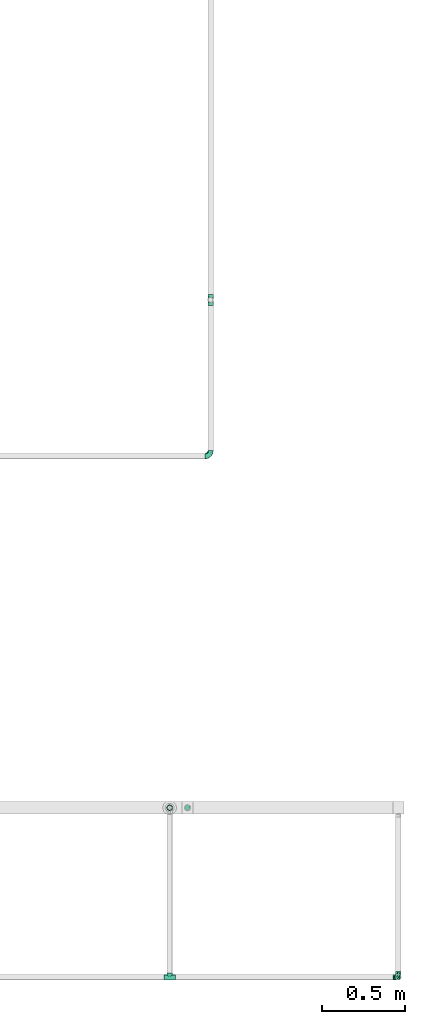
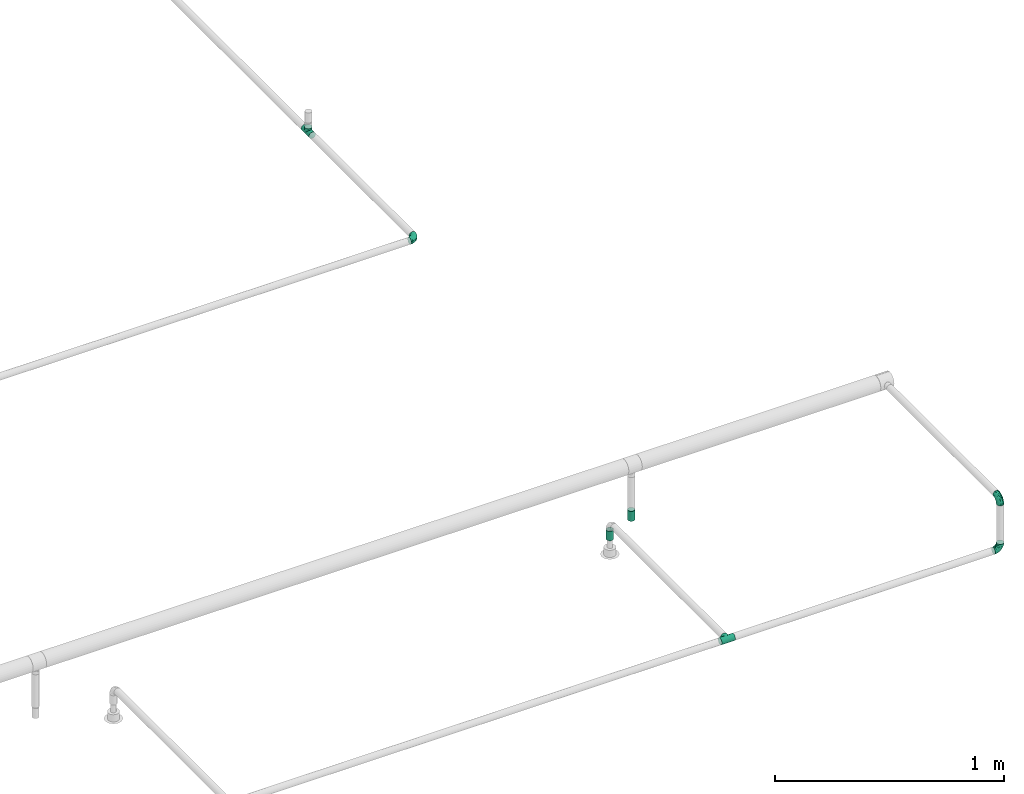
# One storey, part 36 of 45: 5 flow fittings, 1 flow segment, 1 flow terminal.
"""IFC2X3 building model written with IfcOpenShell, lengths in millimetres."""

import ifcopenshell
import ifcopenshell.guid

model = None  # the IFC model being written
_history = None  # IfcOwnerHistory: only IFC2X3 demands one
_inside = {}  # id of a spatial element -> (the spatial element, [elements in it])
_under = {}  # id of a project, library or spatial element -> (it, [spatial elements below it])
_declared = {}  # id of a project -> (the project, [libraries it declares])
_typed = {}  # id of a type object -> (the type object, [elements of that type])
_made_of = {}  # id of a material, layer set ... -> (it, [elements and type objects made of it])


def new_model(schema):
    """Start an empty IFC model of exactly this schema.

    Asked for "IFC4X3", IfcOpenShell would pick the latest addendum, in which some entities
    have other attributes; the version numbers below select the first issue.
    IFC2X3 requires an IfcOwnerHistory on every rooted entity: one is made here for all.
    """
    global model, _history
    if schema == "IFC4X3":
        model = ifcopenshell.file(schema_version=(4, 3, 0, 0))
    else:
        model = ifcopenshell.file(schema=schema)
    _inside.clear()
    _under.clear()
    _declared.clear()
    _typed.clear()
    _made_of.clear()
    _history = None
    if model.schema == "IFC2X3":
        org = make("IfcOrganization", Name="unknown")
        user = make(
            "IfcPersonAndOrganization",
            ThePerson=make("IfcPerson", FamilyName="unknown"),
            TheOrganization=org,
        )
        app = make(
            "IfcApplication",
            ApplicationDeveloper=org,
            Version="unknown",
            ApplicationFullName="unknown",
            ApplicationIdentifier="unknown",
        )
        _history = make(
            "IfcOwnerHistory",
            OwningUser=user,
            OwningApplication=app,
            ChangeAction="ADDED",
            CreationDate=0,
        )
    return model


def make(cls, **values):
    """One entity of the class cls with the attributes given. An attribute that is None is left unset."""
    return model.create_entity(
        cls, **{name: value for name, value in values.items() if value is not None}
    )


def entity(cls, *values):
    """Any entity or typed value of the class cls, its attributes in the order of the schema. None: left unset."""
    e = model.create_entity(cls)
    for i, value in enumerate(values):
        if value is not None:
            e[i] = value
    return e


def rooted(cls, **values):
    """An entity with a GlobalId (a new one), such as an element, a storey or a relation."""
    return make(cls, GlobalId=ifcopenshell.guid.new(), OwnerHistory=_history, **values)


def si_unit(unit_type, name, prefix=None):
    """IfcSIUnit, for example si_unit("LENGTHUNIT", "METRE", prefix="MILLI")."""
    return make("IfcSIUnit", UnitType=unit_type, Prefix=prefix, Name=name)


def converted_unit(unit_type, name, factor, base, dimensions=None, offset=None):
    """IfcConversionBasedUnit, such as the inch: factor (a typed value) times the base unit."""
    return make(
        "IfcConversionBasedUnit"
        if offset is None
        else "IfcConversionBasedUnitWithOffset",
        ConversionOffset=offset,
        Dimensions=None
        if dimensions is None
        else entity("IfcDimensionalExponents", *dimensions),
        UnitType=unit_type,
        Name=name,
        ConversionFactor=make(
            "IfcMeasureWithUnit", ValueComponent=factor, UnitComponent=base
        ),
    )


def derived_unit(unit_type, elements):
    """IfcDerivedUnit: a product of units, each with its exponent."""
    return make(
        "IfcDerivedUnit",
        Elements=[
            make("IfcDerivedUnitElement", Unit=unit, Exponent=power)
            for unit, power in elements
        ],
        UnitType=unit_type,
    )


def assignment(units):
    """IfcUnitAssignment: the units of a project."""
    return None if units is None else make("IfcUnitAssignment", Units=units)


def point(xyz):
    """IfcCartesianPoint."""
    return None if xyz is None else make("IfcCartesianPoint", Coordinates=xyz)


def direction(xyz):
    """IfcDirection."""
    return None if xyz is None else make("IfcDirection", DirectionRatios=xyz)


def frame(location, z_axis=None, x_axis=None):
    """IfcAxis2Placement3D, a coordinate frame: its origin and axes. An axis left out is left unset."""
    return make(
        "IfcAxis2Placement3D",
        Location=point(location),
        Axis=direction(z_axis),
        RefDirection=direction(x_axis),
    )


def frame_2d(location, x_axis=None):
    """IfcAxis2Placement2D, a coordinate frame in the plane: its origin and x axis."""
    return make(
        "IfcAxis2Placement2D", Location=point(location), RefDirection=direction(x_axis)
    )


def origin_with_axes():
    """The frame at (0, 0, 0) with the z axis (0, 0, 1) and the x axis (1, 0, 0) written out."""
    return frame((0.0, 0.0, 0.0), z_axis=(0.0, 0.0, 1.0), x_axis=(1.0, 0.0, 0.0))


def origin_2d_with_axis():
    """The frame at (0, 0) in the plane with the x axis (1, 0) written out."""
    return frame_2d((0.0, 0.0), x_axis=(1.0, 0.0))


def place(relative_to, where):
    """IfcLocalPlacement: puts the frame where relative to a parent placement (None: the world)."""
    return make(
        "IfcLocalPlacement", PlacementRelTo=relative_to, RelativePlacement=where
    )


def context(
    kind, dimensions, precision=None, world=None, true_north=None, identifier=None
):
    """IfcGeometricRepresentationContext, for example the 3D "Model" context."""
    return make(
        "IfcGeometricRepresentationContext",
        ContextIdentifier=identifier,
        ContextType=kind,
        CoordinateSpaceDimension=dimensions,
        Precision=precision,
        WorldCoordinateSystem=world,
        TrueNorth=true_north,
    )


def subcontext(parent, identifier, kind, view, scale=None):
    """IfcGeometricRepresentationSubContext, for example "Body" below "Model"."""
    return make(
        "IfcGeometricRepresentationSubContext",
        ContextIdentifier=identifier,
        ContextType=kind,
        ParentContext=parent,
        TargetScale=scale,
        TargetView=view,
    )


def project(units=None, contexts=None):
    """IfcProject with its units and contexts."""
    return rooted(
        "IfcProject",
        Name="project",
        RepresentationContexts=contexts,
        UnitsInContext=assignment(units),
    )


def spatial(cls, under=None, at=None, **own):
    """A site, building, storey or space (cls), placed at a placement, below another one or the project."""
    s = rooted(cls, ObjectPlacement=at, **own)
    if under is not None:
        _under.setdefault(under.id(), (under, []))[1].append(s)
    return s


def profile(cls, at=None, kind="AREA", **sizes):
    """A parametric profile (cls). Its sizes go by their IFC names, for example OverallWidth=200.0."""
    return make(cls, ProfileType=kind, Position=at, **sizes)


def hollow_circle(**sizes):
    """IfcCircleHollowProfileDef."""
    return profile("IfcCircleHollowProfileDef", **sizes)


def extrude(swept, where, along, depth):
    """IfcExtrudedAreaSolid: the profile swept, set in the frame where, extruded along a direction by depth."""
    return make(
        "IfcExtrudedAreaSolid",
        SweptArea=swept,
        Position=where,
        ExtrudedDirection=direction(along),
        Depth=depth,
    )


def faces_of(points, faces, orient=None, outer=None):
    """IfcFace entities. A face is a list of loops; a loop is a list of indices into points, from 0.

    orient and outer hold one flag for each loop. By default every Orientation is true, the
    first loop of a face is its IfcFaceOuterBound and the others are IfcFaceBound.
    """
    made = []
    for i, loops in enumerate(faces):
        bounds = []
        for j, loop in enumerate(loops):
            is_outer = j == 0 if outer is None else outer[i][j]
            bounds.append(
                make(
                    "IfcFaceOuterBound" if is_outer else "IfcFaceBound",
                    Bound=make("IfcPolyLoop", Polygon=[points[k] for k in loop]),
                    Orientation=True if orient is None else orient[i][j],
                )
            )
        made.append(make("IfcFace", Bounds=bounds))
    return made


def open_shell(faces, orient=None, outer=None):
    """The faces of one IfcOpenShell. surface_model builds it on its shared points."""
    return ("IfcOpenShell", faces, orient, outer)


def surface_model(cls, points, shells):
    """IfcFaceBasedSurfaceModel or IfcShellBasedSurfaceModel (cls): surfaces that need not close."""
    shared = [point(p) for p in points]
    made = [make(c, CfsFaces=faces_of(shared, fs, o, b)) for c, fs, o, b in shells]
    if cls == "IfcFaceBasedSurfaceModel":
        return make(cls, FbsmFaces=made)
    return make(cls, SbsmBoundary=made)


def shape(context_of_items, identifier, shape_type, items):
    """IfcShapeRepresentation: the items that make up one representation, for example the "Body"."""
    return make(
        "IfcShapeRepresentation",
        ContextOfItems=context_of_items,
        RepresentationIdentifier=identifier,
        RepresentationType=shape_type,
        Items=items,
    )


def source(mapping_origin, context_of_items, identifier, shape_type, items):
    """IfcRepresentationMap: a shape defined once, which mapped items show again and again."""
    return make(
        "IfcRepresentationMap",
        MappingOrigin=mapping_origin,
        MappedRepresentation=shape(context_of_items, identifier, shape_type, items),
    )


def transform(
    local_origin,
    x_axis=None,
    y_axis=None,
    z_axis=None,
    scale=None,
    scale2=None,
    scale3=None,
    uniform=True,
):
    """IfcCartesianTransformationOperator3D, or its non-uniform kind. x_axis, y_axis, z_axis: its Axis1, 2, 3."""
    if uniform:
        return make(
            "IfcCartesianTransformationOperator3D",
            Axis1=direction(x_axis),
            Axis2=direction(y_axis),
            LocalOrigin=point(local_origin),
            Scale=scale,
            Axis3=direction(z_axis),
        )
    return make(
        "IfcCartesianTransformationOperator3DnonUniform",
        Axis1=direction(x_axis),
        Axis2=direction(y_axis),
        LocalOrigin=point(local_origin),
        Scale=scale,
        Axis3=direction(z_axis),
        Scale2=scale2,
        Scale3=scale3,
    )


def mapped(mapping_source, mapping_target):
    """IfcMappedItem: shows the shape of a source again, moved by a transform."""
    return make(
        "IfcMappedItem", MappingSource=mapping_source, MappingTarget=mapping_target
    )


def made_of(thing, what):
    """Note that an element or type object is made of a material, layer set ...; save() writes the relation."""
    if what is not None:
        _made_of.setdefault(what.id(), (what, []))[1].append(thing)
    return thing


def type_object(cls, material=None, **own):
    """A type object (cls), such as IfcWallType, which elements share."""
    return made_of(rooted(cls, **own), material)


def element(
    cls,
    number,
    at=None,
    inside=None,
    cuts=None,
    type_object=None,
    material=None,
    context=None,
    identifier="Body",
    shape_type=None,
    held_by="IfcProductDefinitionShape",
    body=None,
    shapes=None,
    **own,
):
    """One element of the class cls, such as IfcWall. Its Tag is "e" and its number.

    at: its placement. inside: the storey or other place that contains it. cuts: it is an
    opening in that element (IfcRelVoidsElement). A single representation is given by context,
    identifier, shape_type and body (its items); several are given by shapes. held_by: the class
    of the entity that holds the representations. save() writes the other relations.
    """
    e = rooted(cls, Tag="e%d" % number, ObjectPlacement=at, **own)
    if body is not None:
        shapes = [shape(context, identifier, shape_type, body)]
    if shapes is not None:
        e.Representation = make(held_by, Representations=shapes)
    if inside is not None:
        _inside.setdefault(inside.id(), (inside, []))[1].append(e)
    if cuts is not None:
        rooted(
            "IfcRelVoidsElement", RelatingBuildingElement=cuts, RelatedOpeningElement=e
        )
    if type_object is not None:
        _typed.setdefault(type_object.id(), (type_object, []))[1].append(e)
    return made_of(e, material)


def aggregate(whole, parts):
    """IfcRelAggregates: a whole, such as a stair, and the parts it consists of."""
    return rooted("IfcRelAggregates", RelatingObject=whole, RelatedObjects=parts)


def save(model, path):
    """Write the relations noted so far, then the file.

    IfcRelAggregates (storeys below a building ...), IfcRelContainedInSpatialStructure (elements
    in a storey), IfcRelDefinesByType, IfcRelAssociatesMaterial and IfcRelDeclares: one each for
    every whole, place, type object, material and project.
    """
    for whole, parts in _under.values():
        aggregate(whole, parts)
    for where, things in _inside.values():
        rooted(
            "IfcRelContainedInSpatialStructure",
            RelatedElements=things,
            RelatingStructure=where,
        )
    for kind, things in _typed.values():
        rooted("IfcRelDefinesByType", RelatedObjects=things, RelatingType=kind)
    for what, things in _made_of.values():
        rooted("IfcRelAssociatesMaterial", RelatedObjects=things, RelatingMaterial=what)
    for by, libraries in _declared.values():
        rooted("IfcRelDeclares", RelatingContext=by, RelatedDefinitions=libraries)
    model.write(path)


model = new_model("IFC2X3")

# Units and contexts
model_context = context("Model", 3, precision=0.01, world=frame((0.0, 4.29681676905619e-09, 0.0)), true_north=direction((4.01073788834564e-13, 1.0)))
plan_context = context("Plan", 3, precision=0.01, world=frame((0.0, 4.29681676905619e-09, 0.0)), true_north=direction((4.01073788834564e-13, 1.0)))
body_context = subcontext(model_context, "Body", "Model", "MODEL_VIEW")
ifc_project = project(units=[converted_unit("PLANEANGLEUNIT", "DEGREE", entity("IfcPositiveLengthMeasure", 0.0174532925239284), si_unit("PLANEANGLEUNIT", "RADIAN"), dimensions=[0, 0, 0, 0, 0, 0, 0]), si_unit("AREAUNIT", "SQUARE_METRE"), si_unit("LENGTHUNIT", "METRE", prefix="MILLI"), si_unit("MASSUNIT", "GRAM", prefix="KILO"), si_unit("POWERUNIT", "WATT"), si_unit("PRESSUREUNIT", "PASCAL", prefix="KILO"), si_unit("FORCEUNIT", "NEWTON", prefix="KILO"), si_unit("ELECTRICVOLTAGEUNIT", "VOLT"), si_unit("ELECTRICCURRENTUNIT", "AMPERE"), si_unit("THERMODYNAMICTEMPERATUREUNIT", "DEGREE_CELSIUS"), si_unit("TIMEUNIT", "SECOND"), si_unit("VOLUMEUNIT", "CUBIC_METRE"), derived_unit("LINEARVELOCITYUNIT", [(si_unit("LENGTHUNIT", "METRE"), 1), (si_unit("TIMEUNIT", "SECOND"), -1)]), derived_unit("VOLUMETRICFLOWRATEUNIT", [(si_unit("VOLUMEUNIT", "CUBIC_METRE"), 1), (si_unit("TIMEUNIT", "SECOND"), -1)]), derived_unit("THERMALTRANSMITTANCEUNIT", [(si_unit("POWERUNIT", "WATT"), 1), (si_unit("THERMODYNAMICTEMPERATUREUNIT", "KELVIN"), -1), (si_unit("AREAUNIT", "SQUARE_METRE"), -1)]), derived_unit("SOUNDPRESSUREUNIT", [(si_unit("PRESSUREUNIT", "PASCAL"), 1)])], contexts=[model_context, plan_context])

# Site, building, storey
site_placement = place(None, frame((0.0, -4.29681676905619e-09, 0.0), z_axis=(0.0, 0.0, 1.0), x_axis=(1.0, 0.0, 0.0)))
site = spatial("IfcSite", under=ifc_project, at=site_placement, CompositionType="ELEMENT")
building_placement = place(site_placement, frame((0.0, 4.29681676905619e-09, 0.0), z_axis=(0.0, 0.0, 1.0), x_axis=(1.0, 0.0, 0.0)))
building = spatial("IfcBuilding", under=site, at=building_placement, Name="mc-building", CompositionType="ELEMENT")
storey_placement = place(building_placement, frame((0.0, 0.0, 210200.0), z_axis=(0.0, 0.0, 1.0), x_axis=(1.0, 0.0, 0.0)))
storey = spatial("IfcBuildingStorey", under=building, at=storey_placement, Name="Nivå F - 0,7 m", CompositionType="ELEMENT", Elevation=210200.0)

# Flow fittings
pipe_fitting_type_1 = type_object("IfcPipeFittingType", Name="magi_pipe_fe_elbow_short_001", PredefinedType="BEND")
shared_shape_1 = source(origin_with_axes(), body_context, "Body", "SurfaceModel", [
    surface_model("IfcShellBasedSurfaceModel", [(-33.8, -11.9501, -11.9501), (-33.8, -14.63583, -8.45), (-33.8, -8.45, -14.63583), (-33.8, 0.0, -16.9), (-33.8, -4.37404, -16.32415), (-33.8, -16.32415, -4.37404), (-33.8, -16.9, 0.0), (-33.8, 11.9501, 11.9501), (-33.8, 14.63583, 8.45), (-33.8, 8.45, 14.63583), (-33.8, -11.9501, 11.9501), (-33.8, -8.45, 14.63583), (-33.8, -14.63583, 8.45), (-33.8, -16.32415, 4.37404), (-33.8, -4.37404, 16.32415), (-33.8, 0.0, 16.9), (-33.8, 16.9, 0.0), (-33.8, 16.32415, -4.37404), (-33.8, 16.32415, 4.37404), (-33.8, 4.37404, -16.32415), (-33.8, 8.45, -14.63583), (-33.8, 14.63583, -8.45), (-33.8, 11.9501, -11.9501), (-33.8, 4.37404, 16.32415), (-4.37404, 33.8, -16.32415), (16.9, 33.8, 0.0), (0.0, 33.8, -16.9), (-16.32415, 33.8, -4.37404), (-8.45, 33.8, -14.63583), (-14.63583, 33.8, -8.45), (-11.9501, 33.8, -11.9501), (16.32415, 33.8, 4.37404), (8.45, 33.8, -14.63583), (14.63583, 33.8, -8.45), (11.9501, 33.8, -11.9501), (4.37404, 33.8, -16.32415), (16.32415, 33.8, -4.37404), (-16.32415, 33.8, 4.37404), (-4.37404, 33.8, 16.32415), (-14.63583, 33.8, 8.45), (-8.45, 33.8, 14.63583), (-11.9501, 33.8, 11.9501), (14.63583, 33.8, 8.45), (8.45, 33.8, 14.63583), (11.9501, 33.8, 11.9501), (0.0, 33.8, 16.9), (4.37404, 33.8, 16.32415), (-16.9, 33.8, 0.0), (-24.79389, -13.12945, 9.48721), (-22.19287, -9.75018, 12.59315), (-24.09897, -14.97035, 0.0), (-14.93934, -10.76256, 8.5297), (-22.46095, -14.75051, 5.27077), (14.75051, 22.46094, 5.27077), (11.9251, 13.23888, 4.33236), (13.04069, 14.39795, 0.0), (7.71387, 13.68847, 11.55891), (9.75018, 22.19287, 12.59315), (4.10169, 13.0571, 14.04018), (-24.84007, -6.39063, 15.2048), (-25.81779, -2.23879, 16.61097), (-23.66549, 2.59054, 16.87119), (-26.50418, 14.06512, 11.08152), (-24.21253, 17.66365, 7.72657), (-29.58514, 15.86957, 7.00283), (-6.17382, -7.5455, 0.0), (-13.23888, -11.9251, 4.33236), (-14.39795, -13.04069, 0.0), (-17.81434, 18.87373, 11.97104), (-6.30846, 29.15138, 15.82987), (-2.31622, 25.28002, 16.85849), (-29.23923, 10.23435, 13.77053), (-1.45439, -2.85688, 7.61475), (-0.28326, 0.34872, 10.09509), (-5.74484, -4.04709, 10.4122), (-4.41137, 11.31918, 16.59407), (-8.39727, 3.10034, 15.7812), (-1.72649, 9.1306, 15.53089), (-17.39909, 24.75344, 7.64977), (-26.19233, 20.0512, 0.0), (-28.14518, 17.29657, 4.25857), (-26.05147, 6.6281, 15.96447), (-5.87354, 16.61944, 16.86968), (-12.51807, 12.51807, 16.48937), (-10.06312, 7.38516, 16.81295), (-3.01882, 3.01882, 13.81718), (-13.0571, -4.10169, 14.04018), (-16.82553, -0.15166, 16.38038), (10.76256, 14.93934, 8.5297), (13.12945, 24.79389, 9.48721), (6.39063, 24.84007, 15.2048), (2.23879, 25.81779, 16.61097), (-13.68847, -7.71387, 11.55891), (14.97035, 24.09897, 0.0), (-7.30894, 22.89991, 16.09489), (-10.67958, 26.17414, 14.008), (-12.78295, 18.26924, 15.06066), (-13.88562, 22.45231, 12.93244), (-18.04944, 15.16501, 14.04434), (-23.11658, 20.08178, 4.02986), (-21.84989, 21.84989, 0.0), (-18.55817, 25.48277, 3.93065), (-13.95142, 26.94732, 11.03289), (-18.57098, 7.23906, 16.59756), (-16.58335, 4.14122, 16.89279), (-17.96666, 11.46709, 15.63151), (-9.84453, 17.54304, 16.18938), (0.15166, 16.82553, 16.38038), (-23.27207, 11.47201, 14.23154), (3.84842, 5.86994, 10.70473), (-8.0212, -7.54413, 7.93275), (1.00345, -2.19508, 4.57414), (5.13203, 3.01004, 5.90201), (5.24161, 1.7543, 2.53265), (8.70457, 7.04947, 3.99182), (-20.0512, 26.19233, 0.0), (8.4852, 8.76699, 7.09296), (-4.55488, -6.72064, 4.90681), (2.05031, -2.05031, 0.0), (7.5455, 6.17382, 0.0), (-26.75399, 2.1369, -16.845), (-14.61995, 24.73803, -11.27736), (-28.45274, -13.45335, -9.81895), (-26.00469, 6.63555, -15.96645), (-23.06726, 20.04573, -4.26202), (-13.80647, -4.26506, -14.17873), (-14.67501, -0.21081, -16.07388), (-6.7902, -0.2828, -13.8478), (-24.53586, 11.08096, -14.13417), (-26.72048, 14.00837, -11.05776), (10.0967, 24.44989, -12.75976), (5.83237, 21.40218, -15.03047), (6.66249, 28.54238, -15.38093), (-20.38182, 15.48705, -12.74596), (12.53268, 21.23441, -9.15363), (12.54494, 15.67504, -5.54878), (9.7522, 12.89279, -8.66343), (-15.65186, 19.64213, -13.01327), (-12.03528, 20.66498, -14.67665), (-15.61907, 15.61906, -14.83879), (-25.56551, -15.26206, 0.0), (-24.65452, -15.12934, -5.50955), (13.45335, 28.45274, -9.81895), (15.12934, 24.65452, -5.50955), (-7.35442, -8.31014, -5.65563), (-15.67504, -12.54494, -5.54878), (-24.44989, -10.0967, -12.75976), (0.16522, 0.41303, -9.71728), (-5.70658, -5.33066, -8.89288), (-5.13869, -2.37198, -11.53565), (-21.23441, -12.53268, -9.15363), (0.71146, 7.93863, -14.09382), (0.21081, 14.67501, -16.07388), (3.49291, 14.42772, -14.76381), (-24.89911, -2.13088, -16.591), (-28.54238, -6.66249, -15.38093), (-18.44386, -7.71663, -13.26957), (2.13088, 24.89911, -16.591), (-28.64342, 17.44413, -2.89318), (1.70017, -1.28722, -5.09504), (-16.57067, 26.81947, -7.36596), (-17.69055, 27.4263, -3.76405), (-12.89279, -9.7522, -8.66343), (-5.96611, 5.96611, -15.95814), (-20.53709, 20.09345, -8.28985), (-2.1369, 26.75399, -16.845), (-6.89872, 24.58781, -16.02578), (-10.60739, 26.53157, -13.98044), (-21.40218, -5.83237, -15.03047), (2.93192, 5.89627, -11.55917), (6.89393, 12.61842, -11.82233), (5.58056, 5.95325, -8.79455), (-3.99512, 18.61798, -16.89635), (8.31014, 7.35442, -5.65563), (-9.1383, 9.86148, -16.89041), (-9.99983, 16.02119, -16.39699), (-16.68576, 9.78031, -16.34199), (-27.01915, 16.61158, -7.12979), (15.26206, 25.56551, 0.0), (-18.61798, 3.99512, -16.89635), (-19.37495, 27.82495, 0.0), (-12.61842, -6.89393, -11.82233), (-18.84705, 19.14018, -10.96545)], [open_shell([[[0, 1, 2]], [[3, 4, 2]], [[5, 6, 1]], [[7, 8, 9]], [[10, 11, 12]], [[13, 12, 11]], [[14, 15, 11]], [[16, 17, 18]], [[3, 6, 19]], [[20, 19, 17]], [[20, 17, 21]], [[22, 20, 21]], [[17, 19, 6]], [[2, 1, 6]], [[2, 6, 3]], [[6, 18, 17]], [[23, 18, 6]], [[8, 18, 23]], [[8, 23, 9]], [[13, 23, 6]], [[23, 13, 11]], [[11, 15, 23]], [[24, 25, 26]], [[27, 24, 28]], [[29, 27, 28]], [[29, 28, 30]], [[31, 25, 24]], [[32, 33, 34]], [[32, 35, 26]], [[33, 25, 36]], [[33, 32, 26]], [[25, 33, 26]], [[24, 27, 37]], [[31, 24, 37]], [[38, 37, 39]], [[40, 38, 39]], [[40, 39, 41]], [[31, 37, 38]], [[42, 43, 44]], [[43, 42, 31]], [[43, 45, 46]], [[43, 31, 38]], [[38, 45, 43]], [[37, 27, 47]], [[10, 48, 49]], [[13, 6, 50]], [[51, 48, 52]], [[53, 54, 55]], [[48, 10, 12]], [[13, 52, 12]], [[56, 57, 58]], [[49, 11, 10]], [[49, 59, 11]], [[15, 60, 61]], [[62, 63, 64]], [[65, 66, 67]], [[57, 44, 43]], [[62, 68, 63]], [[38, 69, 70]], [[9, 71, 7]], [[14, 60, 15]], [[72, 73, 74]], [[75, 76, 77]], [[7, 62, 8]], [[39, 37, 78]], [[79, 16, 80]], [[64, 18, 8]], [[15, 61, 23]], [[23, 81, 9]], [[82, 83, 84]], [[74, 85, 86]], [[59, 86, 87]], [[88, 89, 57]], [[90, 43, 46]], [[42, 53, 31]], [[46, 45, 91]], [[54, 53, 88]], [[42, 89, 53]], [[92, 86, 49]], [[89, 42, 44]], [[11, 59, 14]], [[53, 55, 93]], [[93, 31, 53]], [[66, 52, 67]], [[94, 82, 70]], [[95, 96, 94]], [[97, 98, 96]], [[79, 99, 100]], [[40, 41, 95]], [[101, 100, 99]], [[68, 78, 63]], [[38, 40, 69]], [[16, 18, 80]], [[95, 94, 69]], [[78, 101, 99]], [[41, 102, 95]], [[70, 45, 38]], [[97, 95, 102]], [[13, 50, 52]], [[90, 57, 43]], [[57, 90, 58]], [[81, 23, 61]], [[103, 104, 84]], [[105, 81, 103]], [[41, 39, 102]], [[106, 96, 83]], [[94, 106, 82]], [[91, 70, 107]], [[71, 62, 7]], [[62, 108, 98]], [[86, 59, 49]], [[67, 52, 50]], [[60, 59, 87]], [[92, 49, 51]], [[86, 85, 76]], [[91, 90, 46]], [[25, 31, 93]], [[107, 77, 58]], [[107, 58, 90]], [[58, 85, 109]], [[110, 74, 92]], [[72, 74, 110]], [[66, 51, 52]], [[72, 111, 112]], [[113, 114, 112]], [[56, 88, 57]], [[52, 48, 12]], [[49, 48, 51]], [[57, 89, 44]], [[53, 89, 88]], [[103, 81, 61]], [[71, 81, 108]], [[18, 64, 80]], [[63, 78, 99]], [[47, 115, 101]], [[101, 115, 100]], [[39, 78, 102]], [[68, 102, 78]], [[97, 96, 95]], [[105, 98, 108]], [[103, 84, 83]], [[107, 70, 82]], [[76, 84, 87]], [[82, 84, 75]], [[70, 91, 45]], [[90, 91, 107]], [[59, 60, 14]], [[61, 60, 87]], [[73, 85, 74]], [[109, 112, 116]], [[103, 61, 104]], [[105, 103, 83]], [[96, 105, 83]], [[81, 105, 108]], [[96, 98, 105]], [[62, 98, 68]], [[61, 87, 104]], [[87, 84, 104]], [[86, 76, 87]], [[77, 76, 85]], [[58, 77, 85]], [[75, 77, 107]], [[82, 75, 107]], [[76, 75, 84]], [[81, 71, 9]], [[62, 71, 108]], [[95, 69, 40]], [[70, 69, 94]], [[62, 64, 8]], [[80, 63, 99]], [[63, 80, 64]], [[80, 99, 79]], [[66, 65, 117]], [[110, 66, 117]], [[112, 114, 116]], [[118, 117, 65]], [[110, 92, 51]], [[112, 111, 113]], [[119, 55, 54]], [[74, 86, 92]], [[58, 109, 56]], [[116, 56, 109]], [[66, 110, 51]], [[72, 110, 117]], [[111, 72, 117]], [[73, 112, 109]], [[117, 118, 111]], [[113, 111, 118]], [[118, 119, 113]], [[114, 119, 54]], [[119, 114, 113]], [[116, 54, 88]], [[54, 116, 114]], [[116, 88, 56]], [[112, 73, 72]], [[85, 73, 109]], [[78, 37, 101]], [[47, 101, 37]], [[102, 68, 97]], [[97, 68, 98]], [[82, 106, 83]], [[94, 96, 106]], [[19, 120, 3]], [[29, 30, 121]], [[0, 122, 1]], [[20, 123, 19]], [[100, 124, 79]], [[125, 126, 127]], [[128, 22, 129]], [[130, 131, 132]], [[128, 129, 133]], [[134, 135, 136]], [[137, 138, 139]], [[128, 20, 22]], [[67, 140, 141]], [[134, 142, 143]], [[141, 5, 1]], [[144, 65, 145]], [[146, 0, 2]], [[147, 148, 149]], [[145, 141, 150]], [[151, 152, 153]], [[154, 4, 3]], [[2, 155, 146]], [[150, 146, 156]], [[155, 2, 4]], [[143, 135, 134]], [[35, 157, 26]], [[16, 79, 158]], [[148, 159, 144]], [[160, 161, 27]], [[145, 162, 144]], [[163, 152, 151]], [[27, 29, 160]], [[121, 164, 160]], [[32, 34, 130]], [[26, 165, 24]], [[24, 165, 166]], [[142, 34, 33]], [[30, 28, 167]], [[124, 161, 164]], [[157, 35, 132]], [[155, 154, 168]], [[123, 20, 128]], [[169, 170, 171]], [[172, 157, 152]], [[24, 166, 28]], [[132, 35, 32]], [[142, 130, 34]], [[168, 154, 126]], [[136, 135, 173]], [[133, 137, 139]], [[22, 21, 129]], [[170, 131, 130]], [[33, 36, 143]], [[172, 174, 175]], [[176, 123, 128]], [[158, 177, 17]], [[135, 55, 119]], [[167, 28, 166]], [[175, 166, 172]], [[137, 167, 138]], [[122, 141, 1]], [[140, 6, 5]], [[36, 25, 178]], [[170, 130, 134]], [[152, 157, 131]], [[165, 157, 172]], [[153, 170, 151]], [[152, 163, 174]], [[168, 125, 156]], [[122, 146, 150]], [[120, 154, 3]], [[179, 174, 126]], [[179, 126, 154]], [[126, 163, 127]], [[162, 145, 150]], [[140, 5, 141]], [[36, 178, 143]], [[55, 143, 178]], [[177, 129, 21]], [[128, 133, 139]], [[176, 128, 139]], [[120, 123, 179]], [[121, 160, 29]], [[161, 100, 180]], [[166, 175, 138]], [[121, 30, 167]], [[161, 47, 27]], [[79, 124, 158]], [[124, 164, 177]], [[161, 124, 100]], [[136, 171, 170]], [[127, 163, 151]], [[147, 171, 159]], [[148, 144, 162]], [[127, 151, 169]], [[127, 181, 125]], [[129, 177, 164]], [[21, 17, 177]], [[159, 65, 144]], [[67, 141, 145]], [[143, 55, 135]], [[135, 119, 173]], [[123, 120, 19]], [[154, 120, 179]], [[157, 165, 26]], [[166, 165, 172]], [[172, 152, 174]], [[176, 139, 175]], [[126, 174, 163]], [[176, 174, 179]], [[174, 176, 175]], [[123, 176, 179]], [[150, 181, 162]], [[127, 149, 181]], [[181, 148, 162]], [[159, 148, 147]], [[171, 136, 173]], [[170, 134, 136]], [[159, 171, 173]], [[171, 147, 169]], [[169, 147, 149]], [[151, 170, 169]], [[164, 182, 129]], [[182, 121, 137]], [[181, 149, 148]], [[169, 149, 127]], [[182, 137, 133]], [[167, 137, 121]], [[166, 138, 167]], [[175, 139, 138]], [[129, 182, 133]], [[121, 182, 164]], [[161, 160, 164]], [[47, 161, 180]], [[177, 158, 124]], [[16, 158, 17]], [[130, 132, 32]], [[157, 132, 131]], [[143, 142, 33]], [[130, 142, 134]], [[154, 155, 4]], [[146, 155, 168]], [[146, 122, 0]], [[141, 122, 150]], [[152, 131, 153]], [[159, 119, 118]], [[67, 145, 65]], [[170, 153, 131]], [[119, 159, 173]], [[159, 118, 65]], [[156, 125, 181]], [[126, 125, 168]], [[150, 156, 181]], [[168, 156, 146]]])]),
])
for number, where, z_axis, x_axis, name in (
    (1, (347657.5, 462235.84736, 2810.46849999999), (0.0, 0.0, 1.0), (1.0, 0.0, 0.0), "magi_pipe_fe_elbow_short_001"),
    (2, (348787.66803, 459100.00018, 2665.75487999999), (0.0, 1.0, 0.0), (0.0, 0.0, -1.0), "magi_pipe_fe_elbow_short_001"),
    (3, (348787.66803, 459100.00018, 2938.0), (-1.0, 0.0, 0.0), (0.0, 0.0, 1.0), "magi_pipe_fe_elbow_short_001"),
):
    element("IfcFlowFitting", number, at=place(storey_placement, frame(where, z_axis=z_axis, x_axis=x_axis)), inside=storey, type_object=pipe_fitting_type_1, Name=name, context=body_context, shape_type="MappedRepresentation", body=[
        mapped(shared_shape_1, transform((0.0, 0.0, 0.0), scale=1.0)),
    ])
pipe_fitting_type_2 = type_object("IfcPipeFittingType", Name="magi_pipe_fe_tee_centric_90_001", PredefinedType="JUNCTION")
shared_shape_2 = source(origin_with_axes(), body_context, "Body", "SurfaceModel", [
    surface_model("IfcShellBasedSurfaceModel", [(-33.8, 4.37404, -16.32415), (-33.8, 0.0, -16.9), (-33.8, 16.32415, -4.37404), (-33.8, 8.45, -14.63583), (-33.8, 11.9501, -11.9501), (-33.8, 14.63583, -8.45), (-33.8, -16.9, 0.0), (-33.8, -11.9501, -11.9501), (-33.8, -14.63583, -8.45), (-33.8, -8.45, -14.63583), (-33.8, -4.37404, -16.32415), (-33.8, -16.32415, -4.37404), (-33.8, 14.63583, 8.45), (-33.8, 16.32415, 4.37404), (-33.8, -8.45, 14.63583), (-33.8, 8.45, 14.63583), (-33.8, 11.9501, 11.9501), (-33.8, 4.37404, 16.32415), (-33.8, 0.0, 16.9), (-33.8, -11.9501, 11.9501), (-33.8, -14.63583, 8.45), (-33.8, -16.32415, 4.37404), (-33.8, -4.37404, 16.32415), (-33.8, 16.9, 0.0), (33.8, 4.37404, -16.32415), (33.8, -16.9, 0.0), (33.8, 0.0, -16.9), (33.8, 14.63583, -8.45), (33.8, 8.45, -14.63583), (33.8, 16.32415, -4.37404), (33.8, 11.9501, -11.9501), (33.8, -16.32415, 4.37404), (33.8, -8.45, -14.63583), (33.8, -4.37404, -16.32415), (33.8, -11.9501, -11.9501), (33.8, -14.63583, -8.45), (33.8, -16.32415, -4.37404), (33.8, 16.32415, 4.37404), (33.8, 8.45, 14.63583), (33.8, 14.63583, 8.45), (33.8, 11.9501, 11.9501), (33.8, -8.45, 14.63583), (33.8, 4.37404, 16.32415), (33.8, -14.63583, 8.45), (33.8, -11.9501, 11.9501), (33.8, 0.0, 16.9), (33.8, -4.37404, 16.32415), (33.8, 16.9, 0.0), (16.28698, -16.28698, 4.51047), (16.9, -16.9, 0.0), (14.62704, -14.62704, 8.4652), (9.47213, -9.47213, 13.99602), (12.26343, -12.26343, 11.62834), (-16.9, -16.9, 0.0), (-16.28698, -16.28698, 4.51047), (-14.62704, -14.62704, 8.4652), (-12.26343, -12.26343, 11.62834), (-9.47213, -9.47213, 13.99602), (-6.42894, -6.42894, 15.62942), (6.42894, -6.42894, 15.62942), (3.24522, -3.24522, 16.58549), (0.0, 0.0, 16.9), (-3.24522, -3.24522, 16.58549), (3.24522, -3.24522, -16.58549), (0.0, 0.0, -16.9), (-3.24522, -3.24522, -16.58549), (-6.42894, -6.42894, -15.62942), (6.42894, -6.42894, -15.62942), (9.47213, -9.47213, -13.99602), (12.26343, -12.26343, -11.62834), (14.62704, -14.62704, -8.4652), (16.28698, -16.28698, -4.51047), (-9.47213, -9.47213, -13.99602), (-12.26343, -12.26343, -11.62834), (-16.28698, -16.28698, -4.51047), (-14.62704, -14.62704, -8.4652), (4.37404, -25.35, -16.32415), (-16.9, -25.35, 0.0), (0.0, -25.35, -16.9), (14.63583, -25.35, -8.45), (8.45, -25.35, -14.63583), (16.32415, -25.35, -4.37404), (11.9501, -25.35, -11.9501), (-11.9501, -25.35, -11.9501), (-8.45, -25.35, -14.63583), (-4.37404, -25.35, -16.32415), (-14.63583, -25.35, -8.45), (-16.32415, -25.35, -4.37404), (16.9, -25.35, 0.0), (8.45, -25.35, 14.63583), (16.32415, -25.35, 4.37404), (14.63583, -25.35, 8.45), (-8.45, -25.35, 14.63583), (11.9501, -25.35, 11.9501), (4.37404, -25.35, 16.32415), (-16.32415, -25.35, 4.37404), (-11.9501, -25.35, 11.9501), (-14.63583, -25.35, 8.45), (0.0, -25.35, 16.9), (-4.37404, -25.35, 16.32415)], [open_shell([[[0, 1, 2]], [[3, 0, 4]], [[0, 2, 5]], [[4, 0, 5]], [[6, 2, 1]], [[7, 8, 9]], [[1, 10, 9]], [[11, 6, 8]], [[1, 9, 8]], [[1, 8, 6]], [[6, 12, 2]], [[12, 13, 2]], [[14, 12, 6]], [[12, 14, 15]], [[16, 12, 15]], [[17, 15, 18]], [[19, 14, 20]], [[21, 20, 14]], [[22, 18, 14]], [[14, 6, 21]], [[14, 18, 15]], [[23, 2, 13]], [[24, 25, 26]], [[27, 24, 28]], [[27, 29, 24]], [[27, 28, 30]], [[31, 25, 24]], [[26, 32, 33]], [[26, 34, 32]], [[35, 25, 36]], [[35, 34, 26]], [[25, 35, 26]], [[24, 29, 31]], [[29, 37, 38]], [[38, 37, 39]], [[38, 31, 29]], [[38, 39, 40]], [[41, 38, 42]], [[43, 41, 44]], [[41, 43, 31]], [[41, 45, 46]], [[41, 31, 38]], [[42, 45, 41]], [[29, 47, 37]], [[31, 43, 48]], [[25, 31, 49]], [[49, 31, 48]], [[43, 50, 48]], [[44, 41, 51]], [[50, 43, 52]], [[51, 52, 44]], [[52, 43, 44]], [[53, 54, 21]], [[53, 21, 6]], [[21, 54, 20]], [[54, 55, 20]], [[56, 57, 19]], [[19, 20, 56]], [[19, 57, 14]], [[56, 20, 55]], [[14, 57, 58]], [[51, 41, 59]], [[60, 45, 61]], [[59, 46, 60]], [[46, 59, 41]], [[60, 46, 45]], [[61, 45, 42]], [[39, 37, 13]], [[16, 38, 40]], [[12, 40, 39]], [[42, 38, 15]], [[23, 37, 47]], [[62, 61, 18]], [[62, 22, 58]], [[22, 62, 18]], [[58, 22, 14]], [[61, 17, 18]], [[42, 17, 61]], [[15, 17, 42]], [[15, 38, 16]], [[12, 16, 40]], [[13, 12, 39]], [[37, 23, 13]], [[5, 27, 30]], [[23, 47, 29]], [[30, 28, 3]], [[27, 2, 29]], [[26, 33, 63]], [[26, 64, 24]], [[64, 26, 63]], [[28, 24, 0]], [[64, 0, 24]], [[4, 30, 3]], [[2, 27, 5]], [[5, 30, 4]], [[2, 23, 29]], [[65, 66, 10]], [[1, 0, 64]], [[1, 65, 10]], [[66, 9, 10]], [[0, 3, 28]], [[1, 64, 65]], [[63, 33, 67]], [[32, 34, 68]], [[69, 68, 34]], [[35, 70, 69]], [[69, 34, 35]], [[32, 68, 67]], [[36, 25, 49]], [[36, 71, 35]], [[71, 36, 49]], [[35, 71, 70]], [[72, 9, 66]], [[72, 7, 9]], [[7, 72, 73]], [[7, 73, 8]], [[74, 53, 11]], [[75, 74, 8]], [[74, 11, 8]], [[11, 53, 6]], [[75, 8, 73]], [[32, 67, 33]], [[76, 77, 78]], [[79, 76, 80]], [[79, 81, 76]], [[79, 80, 82]], [[77, 76, 81]], [[78, 83, 84]], [[84, 85, 78]], [[86, 77, 87]], [[83, 78, 86]], [[77, 86, 78]], [[81, 88, 77]], [[89, 88, 90]], [[89, 90, 91]], [[92, 77, 89]], [[89, 91, 93]], [[92, 89, 94]], [[95, 96, 97]], [[96, 95, 92]], [[92, 98, 99]], [[95, 77, 92]], [[94, 98, 92]], [[89, 77, 88]], [[77, 95, 53]], [[54, 53, 95]], [[97, 96, 56]], [[96, 92, 57]], [[95, 97, 54]], [[58, 92, 99]], [[55, 54, 97]], [[56, 55, 97]], [[58, 57, 92]], [[98, 61, 62]], [[58, 99, 62]], [[56, 96, 57]], [[62, 99, 98]], [[94, 60, 98]], [[89, 59, 94]], [[91, 90, 48]], [[52, 93, 91]], [[93, 51, 89]], [[49, 90, 88]], [[59, 60, 94]], [[51, 59, 89]], [[49, 48, 90]], [[50, 52, 91]], [[48, 50, 91]], [[51, 93, 52]], [[98, 60, 61]], [[88, 81, 49]], [[71, 49, 81]], [[79, 82, 69]], [[82, 80, 68]], [[81, 79, 71]], [[67, 80, 76]], [[70, 71, 79]], [[69, 70, 79]], [[67, 68, 80]], [[78, 64, 63]], [[67, 76, 63]], [[69, 82, 68]], [[63, 76, 78]], [[85, 65, 78]], [[84, 66, 85]], [[86, 87, 74]], [[86, 73, 83]], [[72, 84, 83]], [[53, 87, 77]], [[66, 65, 85]], [[72, 66, 84]], [[53, 74, 87]], [[75, 73, 86]], [[74, 75, 86]], [[72, 83, 73]], [[78, 65, 64]]])]),
])
for number, where, z_axis, x_axis, name in (
    (4, (347657.5, 463176.80156, 2810.44542), (-1.0, 0.0, 0.0), (0.0, 1.0, 0.0), "magi_pipe_fe_tee_centric_90_001"),
    (5, (347410.95175, 459100.00018, 2665.77064999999), (1.1999999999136e-05, 0.0, 0.999999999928), (-0.999999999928, 0.0, 1.1999999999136e-05), "magi_pipe_fe_tee_centric_90_001"),
):
    element("IfcFlowFitting", number, at=place(storey_placement, frame(where, z_axis=z_axis, x_axis=x_axis)), inside=storey, type_object=pipe_fitting_type_2, Name=name, context=body_context, shape_type="MappedRepresentation", body=[
        mapped(shared_shape_2, transform((0.0, 0.0, 0.0), scale=1.0)),
    ])

# Flow segment
pipe_segment_type = type_object("IfcPipeSegmentType", Name="Stålrør normaltykke", PredefinedType="RIGIDSEGMENT")
shared_shape_3 = source(origin_with_axes(), body_context, "Body", "SweptSolid", [
    extrude(hollow_circle(Radius=16.9, WallThickness=2.0, at=origin_2d_with_axis()), frame((0.0, 0.0, 0.0), z_axis=(1.0, 0.0, 0.0), x_axis=(0.0, 1.0, 0.0)), (0.0, 0.0, 1.0), 50.0),
])
flow_segment_placement = place(storey_placement, frame((347410.95175, 460120.00018, 2582.0), z_axis=(0.0, -1.0, 0.0), x_axis=(0.0, 0.0, 1.0)))
element("IfcFlowSegment", 6, at=flow_segment_placement, inside=storey, type_object=pipe_segment_type, Name="Stålrør normaltykke", context=body_context, shape_type="MappedRepresentation", body=[
    mapped(shared_shape_3, transform((0.0, 0.0, 0.0), scale=1.0)),
])

# Flow terminal
fire_suppression_terminal_type = type_object("IfcFireSuppressionTerminalType", Name="SP-15-K80-68DGR-STD-HIMLING", PredefinedType="NOTDEFINED")
shared_shape_4 = source(origin_with_axes(), body_context, "Body", "SurfaceModel", [
    surface_model("IfcShellBasedSurfaceModel", [(4.1411, -15.45481, 53.0), (8.0, -13.85641, 53.0), (11.31371, -11.31371, 53.0), (-8.0, -13.85641, 53.0), (15.45481, -4.1411, 53.0), (16.0, 0.0, 53.0), (13.85641, -8.0, 53.0), (0.0, -16.0, 53.0), (-4.1411, -15.45481, 53.0), (-13.85641, -8.0, 53.0), (-11.31371, -11.31371, 53.0), (-15.45481, -4.1411, 53.0), (15.45481, 4.1411, 53.0), (13.85641, 8.0, 53.0), (11.31371, 11.31371, 53.0), (-4.1411, 15.45481, 53.0), (8.0, 13.85641, 53.0), (4.1411, 15.45481, 53.0), (0.0, 16.0, 53.0), (-13.85641, 8.0, 53.0), (-15.45481, 4.1411, 53.0), (-16.0, 0.0, 53.0), (-11.31371, 11.31371, 53.0), (-8.0, 13.85641, 53.0), (0.0, 16.0, 0.0), (4.1411, 15.45481, 0.0), (8.0, 13.85641, 0.0), (-4.1411, 15.45481, 0.0), (11.31371, 11.31371, 0.0), (13.85641, 8.0, 0.0), (15.45481, 4.1411, 0.0), (-15.45481, -4.1411, 0.0), (-11.31371, 11.31371, 0.0), (-8.0, 13.85641, 0.0), (-13.85641, 8.0, 0.0), (-15.45481, 4.1411, 0.0), (-16.0, 0.0, 0.0), (4.1411, -15.45481, 0.0), (16.0, 0.0, 0.0), (15.45481, -4.1411, 0.0), (13.85641, -8.0, 0.0), (11.31371, -11.31371, 0.0), (8.0, -13.85641, 0.0), (-8.0, -13.85641, 0.0), (-13.85641, -8.0, 0.0), (-11.31371, -11.31371, 0.0), (0.0, -16.0, 0.0), (-4.1411, -15.45481, 0.0)], [open_shell([[[0, 1, 2]], [[3, 0, 2]], [[4, 5, 2]], [[4, 2, 6]], [[3, 2, 5]], [[7, 3, 8]], [[7, 0, 3]], [[3, 9, 10]], [[9, 3, 11]], [[5, 11, 3]], [[5, 12, 11]], [[12, 13, 14]], [[15, 12, 14]], [[16, 17, 18]], [[14, 16, 15]], [[18, 15, 16]], [[11, 19, 20]], [[21, 11, 20]], [[22, 15, 23]], [[15, 22, 19]], [[19, 11, 15]], [[11, 12, 15]], [[24, 25, 26]], [[27, 24, 26]], [[28, 29, 30]], [[27, 26, 28]], [[27, 28, 31]], [[27, 32, 33]], [[32, 27, 34]], [[34, 31, 35]], [[31, 34, 27]], [[35, 31, 36]], [[28, 30, 31]], [[37, 38, 39]], [[37, 39, 40]], [[41, 42, 37]], [[41, 37, 40]], [[38, 37, 43]], [[44, 43, 45]], [[43, 44, 31]], [[43, 46, 47]], [[43, 31, 38]], [[37, 46, 43]], [[38, 31, 30]], [[11, 31, 44]], [[45, 9, 44]], [[3, 43, 47]], [[45, 43, 10]], [[8, 47, 46]], [[31, 21, 36]], [[31, 11, 21]], [[44, 9, 11]], [[45, 10, 9]], [[3, 10, 43]], [[47, 8, 3]], [[46, 7, 8]], [[0, 37, 42]], [[41, 1, 42]], [[6, 40, 39]], [[41, 40, 2]], [[4, 39, 38]], [[37, 0, 7]], [[42, 1, 0]], [[41, 2, 1]], [[40, 6, 2]], [[4, 6, 39]], [[38, 5, 4]], [[37, 7, 46]], [[12, 38, 30]], [[13, 30, 29]], [[16, 26, 25]], [[17, 25, 24]], [[30, 13, 12]], [[12, 5, 38]], [[28, 14, 13]], [[28, 26, 14]], [[14, 26, 16]], [[25, 17, 16]], [[28, 13, 29]], [[24, 18, 17]], [[15, 27, 33]], [[32, 23, 33]], [[19, 34, 35]], [[32, 34, 22]], [[20, 35, 36]], [[27, 15, 18]], [[33, 23, 15]], [[32, 22, 23]], [[34, 19, 22]], [[20, 19, 35]], [[36, 21, 20]], [[27, 18, 24]]])]),
])
flow_terminal_placement = place(storey_placement, frame((347518.61043, 460120.00018, 2700.0), z_axis=(0.0, 0.0, -1.0), x_axis=(-1.0, 0.0, 0.0)))
element("IfcFlowTerminal", 7, at=flow_terminal_placement, inside=storey, type_object=fire_suppression_terminal_type, Name="SP-15-K80-68DGR-STD-HIMLING", context=body_context, shape_type="MappedRepresentation", body=[
    mapped(shared_shape_4, transform((0.0, 0.0, 0.0), scale=1.0)),
])

save(model, "model.ifc")
